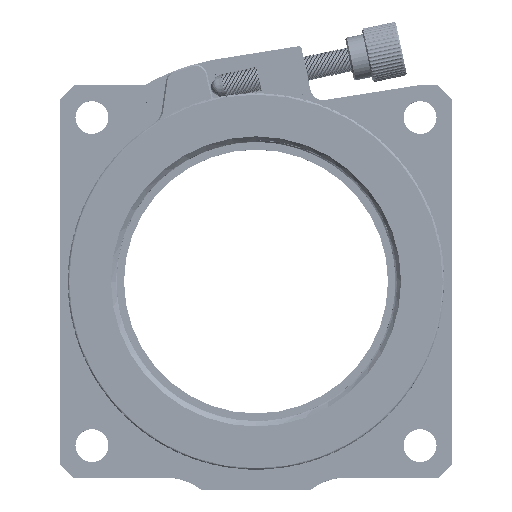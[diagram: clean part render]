
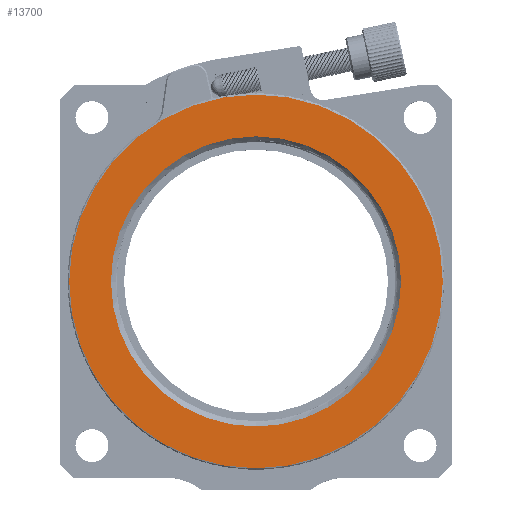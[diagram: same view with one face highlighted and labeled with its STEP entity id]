
A CAD part, top view. The second image highlights one B-rep face of the part: STEP entity #13700.
In plain terms, the highlighted planar face has unit normal (0, 0, 1).
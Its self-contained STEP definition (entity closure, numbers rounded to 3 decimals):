
#2838=CARTESIAN_POINT('',(0.,0.,20.955));
#2839=DIRECTION('',(0.,0.,-1.));
#2840=DIRECTION('',(-1.,0.,0.));
#2841=AXIS2_PLACEMENT_3D('',#2838,#2839,#2840);
#2843=CARTESIAN_POINT('',(0.,0.,20.955));
#2844=DIRECTION('',(0.,0.,-1.));
#2845=DIRECTION('',(1.,0.,0.));
#2846=AXIS2_PLACEMENT_3D('',#2843,#2844,#2845);
#2848=CARTESIAN_POINT('',(0.,0.,20.955));
#2849=DIRECTION('',(0.,0.,1.));
#2850=DIRECTION('',(0.,1.,0.));
#2851=AXIS2_PLACEMENT_3D('',#2848,#2849,#2850);
#2853=CARTESIAN_POINT('',(0.,0.,20.955));
#2854=DIRECTION('',(0.,0.,1.));
#2855=DIRECTION('',(0.,-1.,0.));
#2856=AXIS2_PLACEMENT_3D('',#2853,#2854,#2855);
#9354=CARTESIAN_POINT('',(0.,26.527,20.955));
#9355=VERTEX_POINT('',#9354);
#9356=CARTESIAN_POINT('',(0.,-26.527,20.955));
#9357=VERTEX_POINT('',#9356);
#9360=CARTESIAN_POINT('',(-34.163,0.,20.955));
#9361=CARTESIAN_POINT('',(34.163,0.,20.955));
#9362=VERTEX_POINT('',#9360);
#9363=VERTEX_POINT('',#9361);
#13685=CARTESIAN_POINT('',(0.,-25.502,20.955));
#13686=DIRECTION('',(0.,0.,1.));
#13687=DIRECTION('',(-1.,0.,0.));
#13688=AXIS2_PLACEMENT_3D('',#13685,#13686,#13687);
#13689=PLANE('',#13688);
#13691=ORIENTED_EDGE('',*,*,#13690,.T.);
#13693=ORIENTED_EDGE('',*,*,#13692,.T.);
#13694=EDGE_LOOP('',(#13691,#13693));
#13695=FACE_OUTER_BOUND('',#13694,.F.);
#13696=ORIENTED_EDGE('',*,*,#12378,.T.);
#13697=ORIENTED_EDGE('',*,*,#12353,.T.);
#13698=EDGE_LOOP('',(#13696,#13697));
#13699=FACE_BOUND('',#13698,.F.);
#13700=ADVANCED_FACE('',(#13695,#13699),#13689,.T.);
#2842=CIRCLE('',#2841,34.163);
#2847=CIRCLE('',#2846,34.163);
#2852=CIRCLE('',#2851,26.527);
#2857=CIRCLE('',#2856,26.527);
#12353=EDGE_CURVE('',#9357,#9355,#2857,.T.);
#12378=EDGE_CURVE('',#9355,#9357,#2852,.T.);
#13690=EDGE_CURVE('',#9362,#9363,#2842,.T.);
#13692=EDGE_CURVE('',#9363,#9362,#2847,.T.);
